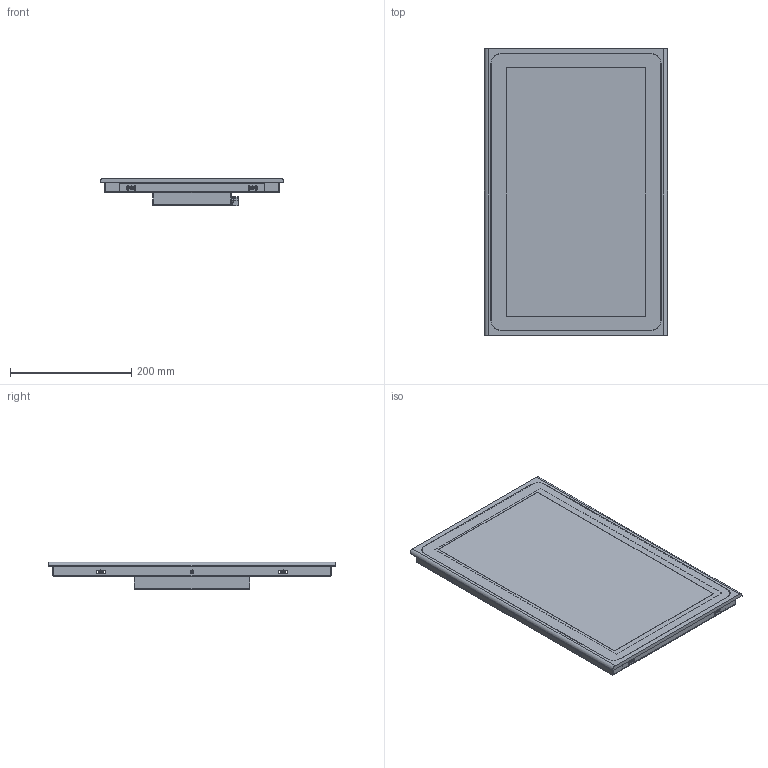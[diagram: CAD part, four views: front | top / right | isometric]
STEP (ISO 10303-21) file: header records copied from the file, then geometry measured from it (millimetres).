
FILE_DESCRIPTION((''),'2;1');
FILE_NAME('FPM-1805D-20241226','2025-08-01T19:31:45',('anthony'),(''),'CREO PARAMETRIC BY PTC INC, 2024063','CREO PARAMETRIC BY PTC INC, 2024063','');
FILE_SCHEMA(('CONFIG_CONTROL_DESIGN','SHAPE_APPEARANCE_LAYERS_GROUPS'));
Products named in the file (1): FPM-1805D-20241226
Bounding box: 301.5 x 472 x 46.09 mm (x, y, z)
Volume: 434355.8 mm3; surface area: 815165.9 mm2
Topology: 6 solids, 28 shells, 2612 faces, 7215 edges, 4722 vertices
Faces by surface type: plane 1773, cylinder 663, cone 92, bspline 44, torus 36, sphere 4
Entity records: 90257 total; most frequent: CARTESIAN_POINT 20474, ORIENTED_EDGE 14310, DIRECTION 13210, EDGE_CURVE 7211, VECTOR 5484, LINE 5484, VERTEX_POINT 4722, AXIS2_PLACEMENT_3D 3863
